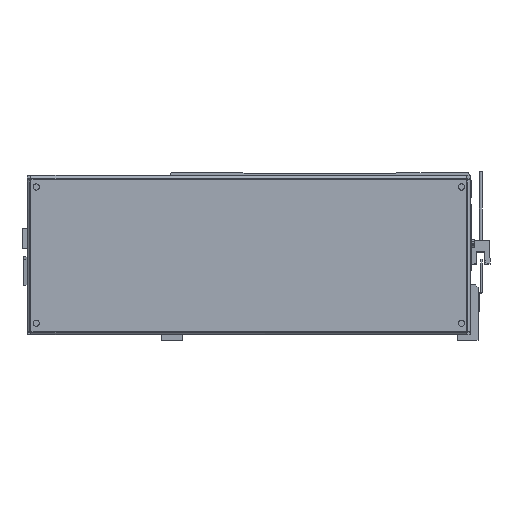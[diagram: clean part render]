
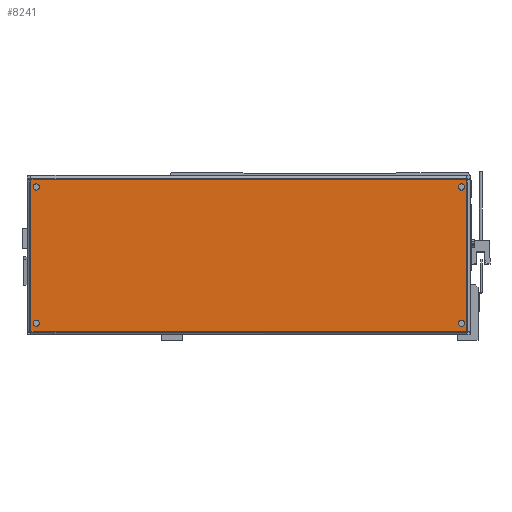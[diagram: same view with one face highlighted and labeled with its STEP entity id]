
A CAD part, front view. The second image highlights one B-rep face of the part: STEP entity #8241.
In plain terms, the highlighted planar face has unit normal (0, -1, 0) as drawn and (0, 0, 1) by its records, which use the part's own axes.
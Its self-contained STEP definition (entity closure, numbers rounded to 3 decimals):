
#293 = VERTEX_POINT ( 'NONE', #12830 ) ;
#447 = EDGE_CURVE ( 'NONE', #891, #14936, #10992, .T. ) ;
#891 = VERTEX_POINT ( 'NONE', #27672 ) ;
#977 = CARTESIAN_POINT ( 'NONE',  ( 210.771, 32.63, 72. ) ) ;
#1951 = EDGE_LOOP ( 'NONE', ( #2139, #8368 ) ) ;
#2139 = ORIENTED_EDGE ( 'NONE', *, *, #4092, .F. ) ;
#2181 = CARTESIAN_POINT ( 'NONE',  ( 213.021, 32.63, 72. ) ) ;
#2210 = ORIENTED_EDGE ( 'NONE', *, *, #17663, .F. ) ;
#2236 = PLANE ( 'NONE',  #4714 ) ;
#2394 = CIRCLE ( 'NONE', #8727, 2.25 ) ;
#2601 = CARTESIAN_POINT ( 'NONE',  ( -98.229, -66.37, 72. ) ) ;
#2627 = DIRECTION ( 'NONE',  ( 0., 0., 1. ) ) ;
#2895 = CIRCLE ( 'NONE', #3195, 2.25 ) ;
#2915 = CARTESIAN_POINT ( 'NONE',  ( -101.992, -72.133, 72. ) ) ;
#3195 = AXIS2_PLACEMENT_3D ( 'NONE', #16220, #2627, #21340 ) ;
#3540 = DIRECTION ( 'NONE',  ( 1., 0., 0. ) ) ;
#3572 = CARTESIAN_POINT ( 'NONE',  ( 214.564, 38.394, 72. ) ) ;
#3630 = CARTESIAN_POINT ( 'NONE',  ( -98.229, 32.63, 72. ) ) ;
#3656 = LINE ( 'NONE', #3572, #17512 ) ;
#3742 = CIRCLE ( 'NONE', #20257, 2.25 ) ;
#4064 = DIRECTION ( 'NONE',  ( 1., 0., 0. ) ) ;
#4092 = EDGE_CURVE ( 'NONE', #13407, #6111, #3742, .T. ) ;
#4154 = CARTESIAN_POINT ( 'NONE',  ( 214.535, -72.163, 72. ) ) ;
#4383 = EDGE_LOOP ( 'NONE', ( #13651, #26978 ) ) ;
#4479 = CARTESIAN_POINT ( 'NONE',  ( 210.771, -66.37, 72. ) ) ;
#4714 = AXIS2_PLACEMENT_3D ( 'NONE', #20347, #25561, #22614 ) ;
#5177 = EDGE_CURVE ( 'NONE', #20688, #891, #3656, .T. ) ;
#5226 = EDGE_CURVE ( 'NONE', #14936, #16355, #8628, .T. ) ;
#5437 = CARTESIAN_POINT ( 'NONE',  ( 208.521, 32.63, 72. ) ) ;
#6111 = VERTEX_POINT ( 'NONE', #25208 ) ;
#6191 = DIRECTION ( 'NONE',  ( 0., 0., 1. ) ) ;
#6511 = CIRCLE ( 'NONE', #14442, 2.25 ) ;
#6709 = DIRECTION ( 'NONE',  ( 1., 0., 0. ) ) ;
#7539 = AXIS2_PLACEMENT_3D ( 'NONE', #2601, #22898, #21011 ) ;
#7719 = FACE_BOUND ( 'NONE', #1951, .T. ) ;
#8241 = ADVANCED_FACE ( 'NONE', ( #7719, #27240, #23997, #14849, #18333 ), #2236, .T. ) ;
#8355 = ORIENTED_EDGE ( 'NONE', *, *, #447, .T. ) ;
#8368 = ORIENTED_EDGE ( 'NONE', *, *, #20282, .F. ) ;
#8446 = DIRECTION ( 'NONE',  ( 0., 0., 1. ) ) ;
#8628 = LINE ( 'NONE', #24050, #25243 ) ;
#8639 = CARTESIAN_POINT ( 'NONE',  ( 210.771, 32.63, 72. ) ) ;
#8727 = AXIS2_PLACEMENT_3D ( 'NONE', #8639, #8446, #4064 ) ;
#8915 = DIRECTION ( 'NONE',  ( 0., 0., 1. ) ) ;
#9546 = CIRCLE ( 'NONE', #22878, 2.25 ) ;
#9637 = CARTESIAN_POINT ( 'NONE',  ( 214.535, -72.133, 72. ) ) ;
#10992 = LINE ( 'NONE', #15335, #21993 ) ;
#11321 = CARTESIAN_POINT ( 'NONE',  ( -95.979, -66.37, 72. ) ) ;
#11738 = CARTESIAN_POINT ( 'NONE',  ( 213.021, -66.37, 72. ) ) ;
#12054 = LINE ( 'NONE', #4154, #12778 ) ;
#12065 = DIRECTION ( 'NONE',  ( 1., 0., 0. ) ) ;
#12556 = CARTESIAN_POINT ( 'NONE',  ( -98.229, 32.63, 72. ) ) ;
#12778 = VECTOR ( 'NONE', #26859, 1000. ) ;
#12787 = DIRECTION ( 'NONE',  ( 1., 0., 0. ) ) ;
#12830 = CARTESIAN_POINT ( 'NONE',  ( -100.479, 32.63, 72. ) ) ;
#12935 = ORIENTED_EDGE ( 'NONE', *, *, #5226, .T. ) ;
#12975 = CIRCLE ( 'NONE', #7539, 2.25 ) ;
#13255 = EDGE_CURVE ( 'NONE', #21114, #27163, #2394, .T. ) ;
#13303 = DIRECTION ( 'NONE',  ( 1., 0., 0. ) ) ;
#13407 = VERTEX_POINT ( 'NONE', #11738 ) ;
#13549 = AXIS2_PLACEMENT_3D ( 'NONE', #12556, #6191, #12065 ) ;
#13651 = ORIENTED_EDGE ( 'NONE', *, *, #25951, .F. ) ;
#13885 = VERTEX_POINT ( 'NONE', #22820 ) ;
#14442 = AXIS2_PLACEMENT_3D ( 'NONE', #4479, #22619, #13303 ) ;
#14484 = EDGE_LOOP ( 'NONE', ( #22792, #8355, #12935, #29146 ) ) ;
#14501 = CIRCLE ( 'NONE', #27705, 2.25 ) ;
#14849 = FACE_BOUND ( 'NONE', #27087, .T. ) ;
#14936 = VERTEX_POINT ( 'NONE', #2915 ) ;
#14988 = DIRECTION ( 'NONE',  ( -1., 0., 0. ) ) ;
#15044 = CIRCLE ( 'NONE', #13549, 2.25 ) ;
#15335 = CARTESIAN_POINT ( 'NONE',  ( -101.992, 38.423, 72. ) ) ;
#15479 = CARTESIAN_POINT ( 'NONE',  ( 214.535, 38.394, 72. ) ) ;
#15568 = EDGE_CURVE ( 'NONE', #16355, #20688, #12054, .T. ) ;
#16034 = CARTESIAN_POINT ( 'NONE',  ( 210.771, -66.37, 72. ) ) ;
#16220 = CARTESIAN_POINT ( 'NONE',  ( -98.229, -66.37, 72. ) ) ;
#16355 = VERTEX_POINT ( 'NONE', #9637 ) ;
#16744 = VERTEX_POINT ( 'NONE', #26869 ) ;
#17502 = VERTEX_POINT ( 'NONE', #11321 ) ;
#17512 = VECTOR ( 'NONE', #14988, 1000. ) ;
#17663 = EDGE_CURVE ( 'NONE', #16744, #17502, #12975, .T. ) ;
#18195 = EDGE_CURVE ( 'NONE', #17502, #16744, #2895, .T. ) ;
#18333 = FACE_OUTER_BOUND ( 'NONE', #14484, .T. ) ;
#19889 = DIRECTION ( 'NONE',  ( 0., 0., 1. ) ) ;
#20257 = AXIS2_PLACEMENT_3D ( 'NONE', #16034, #8915, #22552 ) ;
#20282 = EDGE_CURVE ( 'NONE', #6111, #13407, #6511, .T. ) ;
#20347 = CARTESIAN_POINT ( 'NONE',  ( -76.079, -40.83, 72. ) ) ;
#20688 = VERTEX_POINT ( 'NONE', #15479 ) ;
#21011 = DIRECTION ( 'NONE',  ( 1., 0., 0. ) ) ;
#21114 = VERTEX_POINT ( 'NONE', #5437 ) ;
#21340 = DIRECTION ( 'NONE',  ( 1., 0., 0. ) ) ;
#21993 = VECTOR ( 'NONE', #24504, 1000. ) ;
#22552 = DIRECTION ( 'NONE',  ( 1., 0., 0. ) ) ;
#22614 = DIRECTION ( 'NONE',  ( 1., 0., 0. ) ) ;
#22619 = DIRECTION ( 'NONE',  ( 0., 0., 1. ) ) ;
#22792 = ORIENTED_EDGE ( 'NONE', *, *, #5177, .T. ) ;
#22820 = CARTESIAN_POINT ( 'NONE',  ( -95.979, 32.63, 72. ) ) ;
#22878 = AXIS2_PLACEMENT_3D ( 'NONE', #977, #23521, #3540 ) ;
#22880 = ORIENTED_EDGE ( 'NONE', *, *, #18195, .F. ) ;
#22898 = DIRECTION ( 'NONE',  ( 0., 0., 1. ) ) ;
#23521 = DIRECTION ( 'NONE',  ( 0., 0., 1. ) ) ;
#23997 = FACE_BOUND ( 'NONE', #4383, .T. ) ;
#24050 = CARTESIAN_POINT ( 'NONE',  ( -102.022, -72.133, 72. ) ) ;
#24504 = DIRECTION ( 'NONE',  ( 0., -1., 0. ) ) ;
#25034 = ORIENTED_EDGE ( 'NONE', *, *, #25823, .F. ) ;
#25208 = CARTESIAN_POINT ( 'NONE',  ( 208.521, -66.37, 72. ) ) ;
#25243 = VECTOR ( 'NONE', #12787, 1000. ) ;
#25561 = DIRECTION ( 'NONE',  ( 0., 0., 1. ) ) ;
#25823 = EDGE_CURVE ( 'NONE', #27163, #21114, #9546, .T. ) ;
#25951 = EDGE_CURVE ( 'NONE', #13885, #293, #14501, .T. ) ;
#26113 = ORIENTED_EDGE ( 'NONE', *, *, #13255, .F. ) ;
#26859 = DIRECTION ( 'NONE',  ( 0., 1., 0. ) ) ;
#26869 = CARTESIAN_POINT ( 'NONE',  ( -100.479, -66.37, 72. ) ) ;
#26978 = ORIENTED_EDGE ( 'NONE', *, *, #27728, .F. ) ;
#27087 = EDGE_LOOP ( 'NONE', ( #22880, #2210 ) ) ;
#27163 = VERTEX_POINT ( 'NONE', #2181 ) ;
#27240 = FACE_BOUND ( 'NONE', #28946, .T. ) ;
#27672 = CARTESIAN_POINT ( 'NONE',  ( -101.992, 38.394, 72. ) ) ;
#27705 = AXIS2_PLACEMENT_3D ( 'NONE', #3630, #19889, #6709 ) ;
#27728 = EDGE_CURVE ( 'NONE', #293, #13885, #15044, .T. ) ;
#28946 = EDGE_LOOP ( 'NONE', ( #25034, #26113 ) ) ;
#29146 = ORIENTED_EDGE ( 'NONE', *, *, #15568, .T. ) ;
